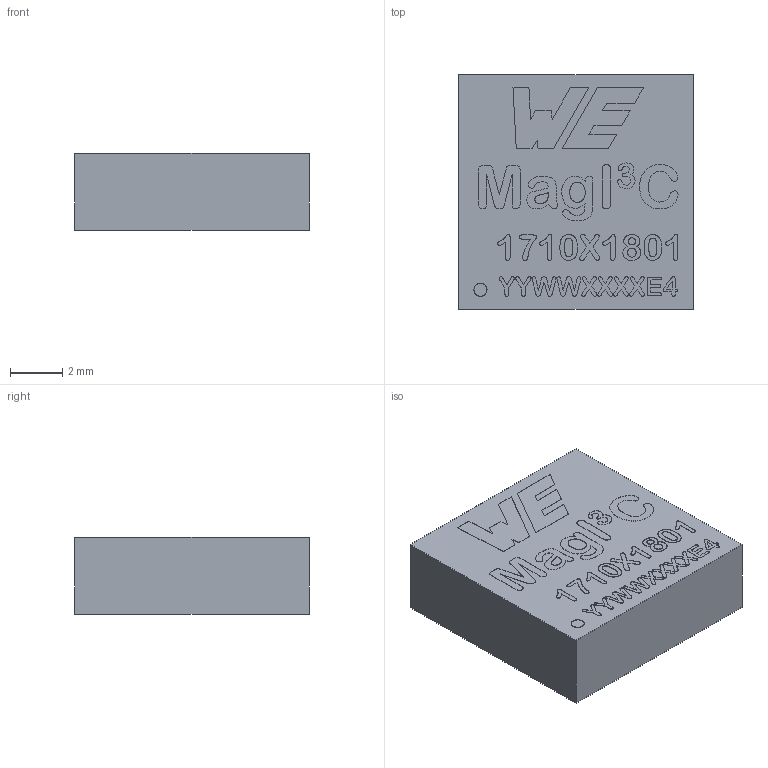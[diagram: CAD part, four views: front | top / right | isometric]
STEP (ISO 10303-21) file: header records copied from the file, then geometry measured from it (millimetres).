
FILE_DESCRIPTION(/* description */ ('Unknown'),/* implementation_level */ '2;1');
FILE_NAME(/* name */ 'U_Wurth_MagIC-VDLM-LGA-16EP_1710x1801',/* time_stamp */ '2024-12-26T16:00:00+08:00',/* author */ ('Unknown'),/* organization */ ('Unknown'),/* preprocessor_version */ 'ST-DEVELOPER v19.4',/* originating_system */ 'Solid Edge',/* authorisation */ 'Unknown');
FILE_SCHEMA (('AUTOMOTIVE_DESIGN {1 0 10303 214 3 1 1}'));
Products named in the file (1): U_Wurth_MagIC-VDLM-LGA-16EP_1710x1801
Bounding box: 9 x 9 x 2.96 mm (x, y, z)
Volume: 239 mm3; surface area: 270.5 mm2
Topology: 1 solids, 1 shells, 3060 faces, 9006 edges, 6004 vertices
Faces by surface type: plane 3059, cylinder 1
Full cylindrical faces by diameter (mm): 0.3 x1
Entity records: 121091 total; most frequent: CARTESIAN_POINT 18070, ORIENTED_EDGE 18010, DIRECTION 15129, EDGE_CURVE 9005, LINE 9003, VECTOR 9003, VERTEX_POINT 6004, EDGE_LOOP 3117
